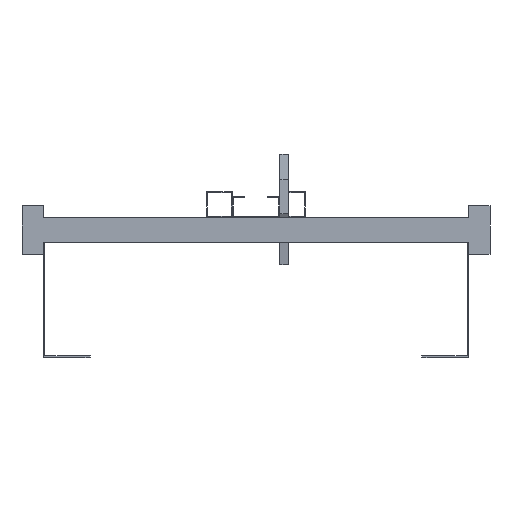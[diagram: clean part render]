
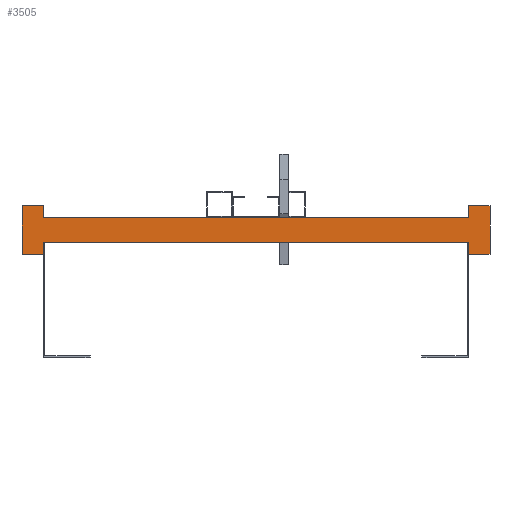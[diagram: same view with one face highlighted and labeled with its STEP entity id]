
A CAD part, front view. The second image highlights one B-rep face of the part: STEP entity #3505.
In plain terms, the highlighted planar face has unit normal (0, -1, 0).
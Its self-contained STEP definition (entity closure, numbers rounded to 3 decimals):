
#1293=DIRECTION('',(0.,0.,1.));
#1294=VECTOR('',#1293,13.5);
#1295=CARTESIAN_POINT('',(250.,0.,-28.5));
#1296=LINE('',#1295,#1294);
#1297=DIRECTION('',(0.,0.,-1.));
#1298=VECTOR('',#1297,13.5);
#1299=CARTESIAN_POINT('',(-250.,0.,-15.));
#1300=LINE('',#1299,#1298);
#1301=DIRECTION('',(-1.,0.,0.));
#1302=VECTOR('',#1301,25.);
#1303=CARTESIAN_POINT('',(-250.,0.,-28.5));
#1304=LINE('',#1303,#1302);
#1305=DIRECTION('',(0.,0.,1.));
#1306=VECTOR('',#1305,57.);
#1307=CARTESIAN_POINT('',(-275.,0.,-28.5));
#1308=LINE('',#1307,#1306);
#1309=DIRECTION('',(1.,0.,0.));
#1310=VECTOR('',#1309,25.);
#1311=CARTESIAN_POINT('',(-275.,0.,28.5));
#1312=LINE('',#1311,#1310);
#1313=DIRECTION('',(0.,0.,-1.));
#1314=VECTOR('',#1313,13.5);
#1315=CARTESIAN_POINT('',(-250.,0.,28.5));
#1316=LINE('',#1315,#1314);
#1317=DIRECTION('',(0.,0.,1.));
#1318=VECTOR('',#1317,13.5);
#1319=CARTESIAN_POINT('',(250.,0.,15.));
#1320=LINE('',#1319,#1318);
#1321=DIRECTION('',(1.,0.,0.));
#1322=VECTOR('',#1321,25.);
#1323=CARTESIAN_POINT('',(250.,0.,28.5));
#1324=LINE('',#1323,#1322);
#1325=DIRECTION('',(0.,0.,-1.));
#1326=VECTOR('',#1325,57.);
#1327=CARTESIAN_POINT('',(275.,0.,28.5));
#1328=LINE('',#1327,#1326);
#1329=DIRECTION('',(-1.,0.,0.));
#1330=VECTOR('',#1329,25.);
#1331=CARTESIAN_POINT('',(275.,0.,-28.5));
#1332=LINE('',#1331,#1330);
#1333=DIRECTION('',(1.,0.,0.));
#1334=VECTOR('',#1333,500.);
#1335=CARTESIAN_POINT('',(-250.,0.,-15.));
#1336=LINE('',#1335,#1334);
#1345=DIRECTION('',(1.,0.,0.));
#1346=VECTOR('',#1345,500.);
#1347=CARTESIAN_POINT('',(-250.,0.,15.));
#1348=LINE('',#1347,#1346);
#1361=CARTESIAN_POINT('',(-275.,0.,28.5));
#1362=CARTESIAN_POINT('',(-250.,0.,28.5));
#1363=VERTEX_POINT('',#1361);
#1364=VERTEX_POINT('',#1362);
#1365=CARTESIAN_POINT('',(-250.,0.,-28.5));
#1366=CARTESIAN_POINT('',(-275.,0.,-28.5));
#1367=VERTEX_POINT('',#1365);
#1368=VERTEX_POINT('',#1366);
#1369=CARTESIAN_POINT('',(275.,0.,28.5));
#1370=CARTESIAN_POINT('',(275.,0.,-28.5));
#1371=VERTEX_POINT('',#1369);
#1372=VERTEX_POINT('',#1370);
#1373=CARTESIAN_POINT('',(250.,0.,-28.5));
#1374=VERTEX_POINT('',#1373);
#1375=CARTESIAN_POINT('',(250.,0.,28.5));
#1376=VERTEX_POINT('',#1375);
#1393=CARTESIAN_POINT('',(-250.,0.,-15.));
#1395=VERTEX_POINT('',#1393);
#1397=CARTESIAN_POINT('',(-250.,0.,15.));
#1399=VERTEX_POINT('',#1397);
#1401=CARTESIAN_POINT('',(250.,0.,-15.));
#1403=VERTEX_POINT('',#1401);
#1405=CARTESIAN_POINT('',(250.,0.,15.));
#1407=VERTEX_POINT('',#1405);
#3481=CARTESIAN_POINT('',(0.,0.,0.));
#3482=DIRECTION('',(0.,1.,0.));
#3483=DIRECTION('',(1.,0.,0.));
#3484=AXIS2_PLACEMENT_3D('',#3481,#3482,#3483);
#3485=PLANE('',#3484);
#3486=ORIENTED_EDGE('',*,*,#2080,.T.);
#3488=ORIENTED_EDGE('',*,*,#3487,.F.);
#3489=ORIENTED_EDGE('',*,*,#1848,.T.);
#3490=ORIENTED_EDGE('',*,*,#2987,.T.);
#3492=ORIENTED_EDGE('',*,*,#3491,.T.);
#3493=ORIENTED_EDGE('',*,*,#3472,.T.);
#3494=ORIENTED_EDGE('',*,*,#1856,.T.);
#3496=ORIENTED_EDGE('',*,*,#3495,.T.);
#3497=ORIENTED_EDGE('',*,*,#2072,.T.);
#3499=ORIENTED_EDGE('',*,*,#3498,.T.);
#3501=ORIENTED_EDGE('',*,*,#3500,.T.);
#3502=ORIENTED_EDGE('',*,*,#2713,.T.);
#3503=EDGE_LOOP('',(#3486,#3488,#3489,#3490,#3492,#3493,#3494,#3496,#3497,#3499,
#3501,#3502));
#3504=FACE_OUTER_BOUND('',#3503,.F.);
#1848=EDGE_CURVE('',#1395,#1367,#1300,.T.);
#1856=EDGE_CURVE('',#1364,#1399,#1316,.T.);
#2072=EDGE_CURVE('',#1407,#1376,#1320,.T.);
#2080=EDGE_CURVE('',#1374,#1403,#1296,.T.);
#2713=EDGE_CURVE('',#1372,#1374,#1332,.T.);
#2987=EDGE_CURVE('',#1367,#1368,#1304,.T.);
#3472=EDGE_CURVE('',#1363,#1364,#1312,.T.);
#3487=EDGE_CURVE('',#1395,#1403,#1336,.T.);
#3491=EDGE_CURVE('',#1368,#1363,#1308,.T.);
#3495=EDGE_CURVE('',#1399,#1407,#1348,.T.);
#3498=EDGE_CURVE('',#1376,#1371,#1324,.T.);
#3500=EDGE_CURVE('',#1371,#1372,#1328,.T.);
#3505=ADVANCED_FACE('',(#3504),#3485,.F.);
